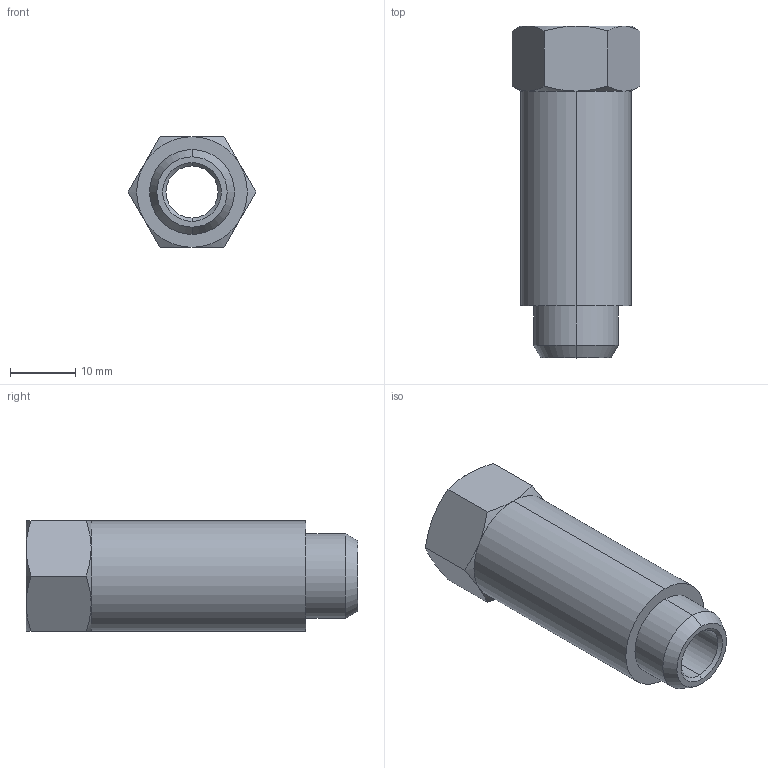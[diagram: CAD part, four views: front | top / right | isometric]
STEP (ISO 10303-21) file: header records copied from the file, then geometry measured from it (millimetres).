
FILE_DESCRIPTION (( 'STEP AP214' ), '1' );
FILE_NAME ('020700001BM00B.STEP', '2015-07-07T08:39:27', ( '' ), ( '' ), 'SwSTEP 2.0', 'SolidWorks 2015', '' );
FILE_SCHEMA (( 'AUTOMOTIVE_DESIGN' ));
Length unit declared in the file: millimetre
Products named in the file (1): 020700001BM00B
Bounding box: 19.63 x 51 x 17 mm (x, y, z)
Volume: 6725.4 mm3; surface area: 4613.2 mm2
Topology: 1 solids, 1 shells, 38 faces, 80 edges, 46 vertices
Faces by surface type: cone 20, plane 10, cylinder 8
Entity records: 1150 total; most frequent: CARTESIAN_POINT 301, DIRECTION 168, ORIENTED_EDGE 160, EDGE_CURVE 80, AXIS2_PLACEMENT_3D 73, VERTEX_POINT 46, EDGE_LOOP 42, ADVANCED_FACE 38
